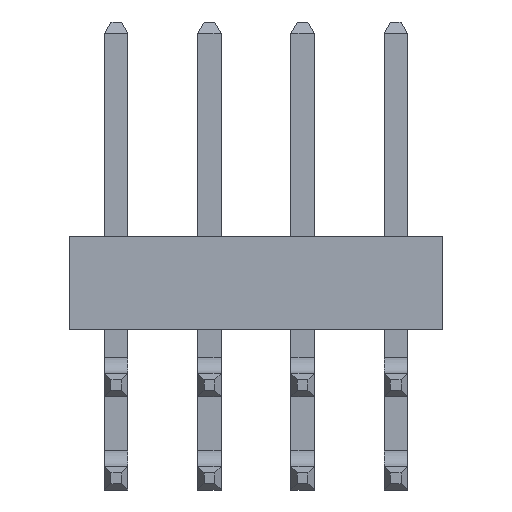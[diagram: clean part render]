
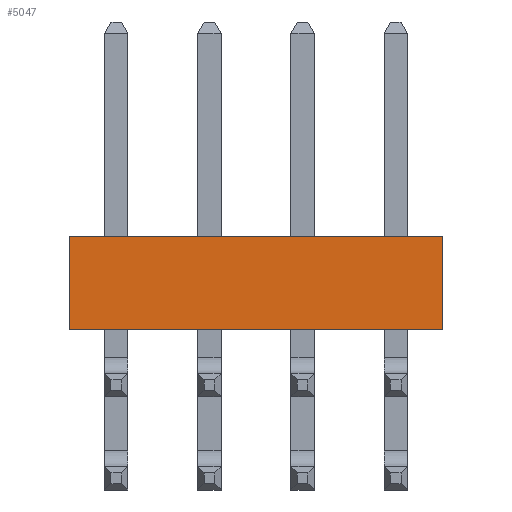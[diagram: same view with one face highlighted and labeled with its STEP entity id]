
A CAD part, front view. The second image highlights one B-rep face of the part: STEP entity #5047.
In plain terms, the highlighted planar face has unit normal (0, -1, 0).
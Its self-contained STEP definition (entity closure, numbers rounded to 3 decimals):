
#4356 = CARTESIAN_POINT ( 'NONE',  ( -5.08, 0., -1.74 ) ) ;
#4357 = VERTEX_POINT ( 'NONE', #4356 ) ;
#4358 = CARTESIAN_POINT ( 'NONE',  ( -5.08, 0., 0.8 ) ) ;
#4359 = VERTEX_POINT ( 'NONE', #4358 ) ;
#4360 = CARTESIAN_POINT ( 'NONE',  ( -5.08, 0., -1.74 ) ) ;
#4361 = DIRECTION ( 'NONE',  ( 0., 0., 1. ) ) ;
#4362 = VECTOR ( 'NONE', #4361, 1000. ) ;
#4363 = LINE ( 'NONE', #4360, #4362 ) ;
#4364 = EDGE_CURVE ( 'NONE', #4357, #4359, #4363, .T. ) ;
#4668 = CARTESIAN_POINT ( 'NONE',  ( 5.08, 0., 0.8 ) ) ;
#4669 = VERTEX_POINT ( 'NONE', #4668 ) ;
#4670 = CARTESIAN_POINT ( 'NONE',  ( -5.08, 0., 0.8 ) ) ;
#4671 = DIRECTION ( 'NONE',  ( 1., 0., 0. ) ) ;
#4672 = VECTOR ( 'NONE', #4671, 1000. ) ;
#4673 = LINE ( 'NONE', #4670, #4672 ) ;
#4674 = EDGE_CURVE ( 'NONE', #4359, #4669, #4673, .T. ) ;
#4699 = CARTESIAN_POINT ( 'NONE',  ( 5.08, 0., -1.74 ) ) ;
#4700 = VERTEX_POINT ( 'NONE', #4699 ) ;
#4701 = CARTESIAN_POINT ( 'NONE',  ( 5.08, 0., -1.74 ) ) ;
#4702 = DIRECTION ( 'NONE',  ( 0., 0., -1. ) ) ;
#4703 = VECTOR ( 'NONE', #4702, 1000. ) ;
#4704 = LINE ( 'NONE', #4701, #4703 ) ;
#4705 = EDGE_CURVE ( 'NONE', #4669, #4700, #4704, .T. ) ;
#5002 = CARTESIAN_POINT ( 'NONE',  ( -5.08, 0., -1.74 ) ) ;
#5003 = DIRECTION ( 'NONE',  ( -1., 0., 0. ) ) ;
#5004 = VECTOR ( 'NONE', #5003, 1000. ) ;
#5005 = LINE ( 'NONE', #5002, #5004 ) ;
#5006 = EDGE_CURVE ( 'NONE', #4700, #4357, #5005, .T. ) ;
#5036 = ORIENTED_EDGE ( 'NONE', *, *, #4364, .F. ) ;
#5037 = ORIENTED_EDGE ( 'NONE', *, *, #5006, .F. ) ;
#5038 = ORIENTED_EDGE ( 'NONE', *, *, #4705, .F. ) ;
#5039 = ORIENTED_EDGE ( 'NONE', *, *, #4674, .F. ) ;
#5040 = EDGE_LOOP ( 'NONE', ( #5036, #5037, #5038, #5039 ) ) ;
#5041 = FACE_OUTER_BOUND ( 'NONE', #5040, .T. ) ;
#5042 = CARTESIAN_POINT ( 'NONE',  ( 0., 0., 0. ) ) ;
#5043 = DIRECTION ( 'NONE',  ( 0., 1., 0. ) ) ;
#5044 = DIRECTION ( 'NONE',  ( 0., 0., 1. ) ) ;
#5045 = AXIS2_PLACEMENT_3D ( 'NONE', #5042, #5043, #5044 ) ;
#5046 = PLANE ( 'NONE', #5045 ) ;
#5047 = ADVANCED_FACE ( 'NONE', ( #5041 ), #5046, .F. ) ;
